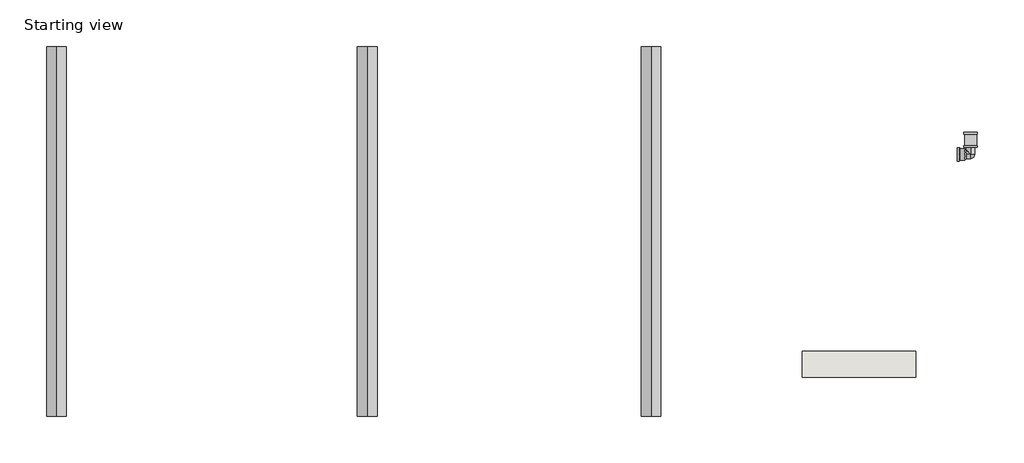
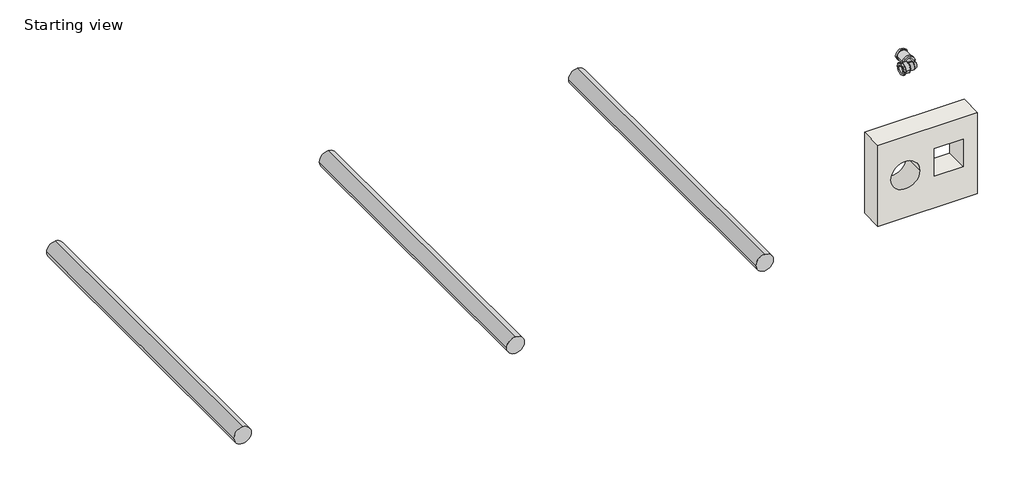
# One storey, incomplete: 3 pipe segments, 2 pipe fittings, 1 wall.
"""IFC4 building model written with IfcOpenShell, lengths in millimetres."""

from ifc_helpers import new_model, si_unit, point, frame, frame_2d, origin, place, context, project, spatial, polyline, circle_curve, trimmed, segment, composite_curve, outline, extrude, transform, mapped, element, save
from components import var_d9dd8e61, var_c5e0cd6b

model = new_model("IFC4")

# Units and contexts
model_context = context("Model", 3, world=origin())
ifc_project = project(units=[si_unit("LENGTHUNIT", "METRE", prefix="MILLI")], contexts=[model_context])

# Site, building, storey
site = spatial("IfcSite", under=ifc_project)
building = spatial("IfcBuilding", under=site)
storey = spatial("IfcBuildingStorey", under=building, Name="Starting view", Elevation=0.0)

# Pipe fittings
placement = place(None, origin())
var_shape = var_d9dd8e61(model_context)
element("IfcPipeFitting", 1, ObjectType="PlastigamaWavin_Unionesdetubería_LineaDoradaZNoUsarUnión : Var.", at=placement, inside=storey, context=model_context, shape_type="MappedRepresentation", body=[
    mapped(var_shape, transform((4324.9375623, 7623.9203881, 0.0), x_axis=(0.0, 1.0, 0.0), y_axis=(-1.0, 0.0, 0.0), z_axis=(0.0, 0.0, 1.0))),
])
var_2_shape = var_c5e0cd6b(model_context)
element("IfcPipeFitting", 2, ObjectType="PlastigamaWavin_Unionesdetubería_LineaDoradaCodoCachimba1/2\"-3/4\" : Var.", at=placement, inside=storey, context=model_context, shape_type="MappedRepresentation", body=[
    mapped(var_2_shape, transform((4324.9375623, 7579.4203881, 0.0), x_axis=(1.0, 0.0, 0.0), y_axis=(0.0, 1.0, 0.0), z_axis=(0.0, 0.0, 1.0))),
])

# Pipe segments
element("IfcPipeSegment", 3, ObjectType="Plastigama Línea Dorada PP Cuatritubo", at=placement, inside=storey, context=model_context, shape_type="SweptSolid", body=[
    extrude(outline(composite_curve([segment(trimmed(circle_curve(frame_2d((100.0, 2487.998611)), 30.3), [point((100.0, 2457.698611))], [point((69.7, 2487.998611))], False, "CARTESIAN"), True, "CONTINUOUS"), segment(trimmed(circle_curve(frame_2d((100.0, 2487.998611)), 30.3), [point((69.7, 2487.998611))], [point((100.0, 2518.298611))], False, "CARTESIAN"), True, "CONTINUOUS"), segment(trimmed(circle_curve(frame_2d((100.0, 2487.998611)), 30.3), [point((100.0, 2518.298611))], [point((130.3, 2487.998611))], False, "CARTESIAN"), True, "CONTINUOUS"), segment(trimmed(circle_curve(frame_2d((100.0, 2487.998611)), 30.3), [point((130.3, 2487.998611))], [point((100.0, 2457.698611))], False, "CARTESIAN"), True, "CONTINUOUS")], self_intersect=False)), frame((0.0, 6782.8370988, 0.0), z_axis=(0.0, 1.0, 0.0), x_axis=(0.0, 0.0, 1.0)), (0.0, 0.0, 1.0), 1124.84),
])
element("IfcPipeSegment", 4, ObjectType="Plastigama Línea Dorada PP Monocapa", at=placement, inside=storey, context=model_context, shape_type="SweptSolid", body=[
    extrude(outline(composite_curve([segment(trimmed(circle_curve(frame_2d((100.0, 1542.0292477)), 30.3), [point((100.0, 1511.7292477))], [point((69.7, 1542.0292477))], False, "CARTESIAN"), True, "CONTINUOUS"), segment(trimmed(circle_curve(frame_2d((100.0, 1542.0292477)), 30.3), [point((69.7, 1542.0292477))], [point((100.0, 1572.3292477))], False, "CARTESIAN"), True, "CONTINUOUS"), segment(trimmed(circle_curve(frame_2d((100.0, 1542.0292477)), 30.3), [point((100.0, 1572.3292477))], [point((130.3, 1542.0292477))], False, "CARTESIAN"), True, "CONTINUOUS"), segment(trimmed(circle_curve(frame_2d((100.0, 1542.0292477)), 30.3), [point((130.3, 1542.0292477))], [point((100.0, 1511.7292477))], False, "CARTESIAN"), True, "CONTINUOUS")], self_intersect=False)), frame((0.0, 6782.8370988, 0.0), z_axis=(0.0, 1.0, 0.0), x_axis=(0.0, 0.0, 1.0)), (0.0, 0.0, 1.0), 1124.84),
])
element("IfcPipeSegment", 5, ObjectType="Plastigama PVC Presión AF Roscable", at=placement, inside=storey, context=model_context, shape_type="SweptSolid", body=[
    extrude(outline(composite_curve([segment(trimmed(circle_curve(frame_2d((100.0, 3351.9197021)), 30.16), [point((100.0, 3321.7597021))], [point((69.84, 3351.9197021))], False, "CARTESIAN"), True, "CONTINUOUS"), segment(trimmed(circle_curve(frame_2d((100.0, 3351.9197021)), 30.16), [point((69.84, 3351.9197021))], [point((100.0, 3382.0797021))], False, "CARTESIAN"), True, "CONTINUOUS"), segment(trimmed(circle_curve(frame_2d((100.0, 3351.9197021)), 30.16), [point((100.0, 3382.0797021))], [point((130.16, 3351.9197021))], False, "CARTESIAN"), True, "CONTINUOUS"), segment(trimmed(circle_curve(frame_2d((100.0, 3351.9197021)), 30.16), [point((130.16, 3351.9197021))], [point((100.0, 3321.7597021))], False, "CARTESIAN"), True, "CONTINUOUS")], self_intersect=False)), frame((0.0, 6782.8370988, 0.0), z_axis=(0.0, 1.0, 0.0), x_axis=(0.0, 0.0, 1.0)), (0.0, 0.0, 1.0), 1124.84),
])

# Wall
element("IfcWall", 6, ObjectType="Wall 1", at=placement, inside=storey, context=model_context, shape_type="SweptSolid", body=[
    extrude(outline(polyline([(0.0, 3812.7746766), (0.0, 4157.7746766), (296.5968372, 4157.7746766), (296.5968372, 3812.7746766), (0.0, 3812.7746766)]), holes=[composite_curve([segment(trimmed(circle_curve(frame_2d((154.4282969, 3907.7746766)), 50.0), [point((154.4282969, 3957.7746766))], [point((154.4282969, 3857.7746766))], True, "CARTESIAN"), True, "CONTINUOUS"), segment(trimmed(circle_curve(frame_2d((154.4282969, 3907.7746766)), 50.0), [point((154.4282969, 3857.7746766))], [point((154.4282969, 3957.7746766))], True, "CARTESIAN"), True, "CONTINUOUS")], self_intersect=False), polyline([(116.4896004, 4107.7746766), (116.4896004, 4007.7746766), (216.4896004, 4007.7746766), (216.4896004, 4107.7746766), (116.4896004, 4107.7746766)])]), frame((0.0, 6900.5257697, 0.0), z_axis=(0.0, 1.0, 0.0), x_axis=(0.0, 0.0, 1.0)), (0.0, 0.0, 1.0), 80.0),
])

save(model, "model.ifc")
